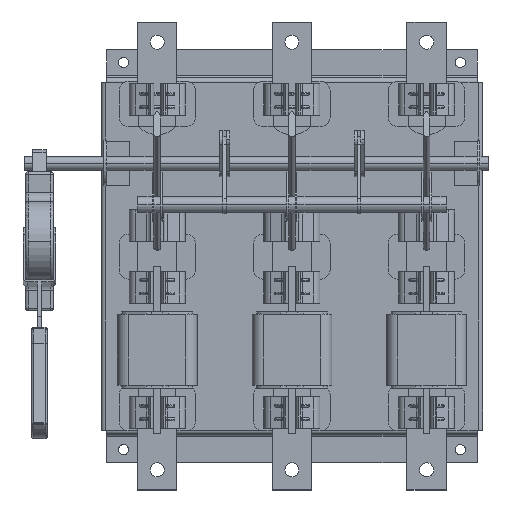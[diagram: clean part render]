
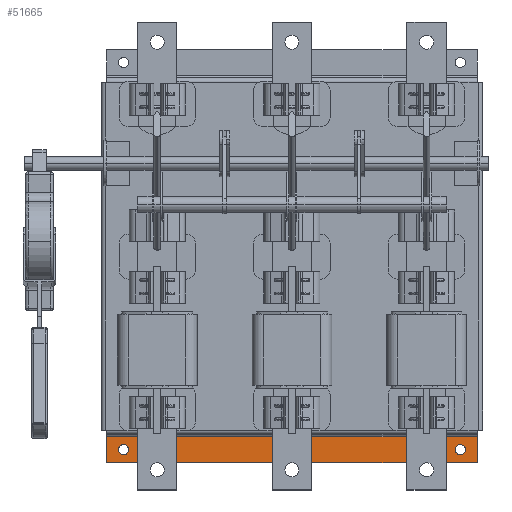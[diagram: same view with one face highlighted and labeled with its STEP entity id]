
A CAD part, top view. The second image highlights one B-rep face of the part: STEP entity #51665.
In plain terms, the highlighted planar face has unit normal (0, 0, 1).
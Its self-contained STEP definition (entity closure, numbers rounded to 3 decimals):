
#122 = DIRECTION ( 'NONE',  ( 0., 0., -1. ) ) ;
#995 = CARTESIAN_POINT ( 'NONE',  ( 150., -255., -11. ) ) ;
#1168 = DIRECTION ( 'NONE',  ( 1., 0., 0. ) ) ;
#1315 = EDGE_CURVE ( 'NONE', #61432, #32245, #54185, .T. ) ;
#1501 = AXIS2_PLACEMENT_3D ( 'NONE', #995, #51177, #56183 ) ;
#2226 = DIRECTION ( 'NONE',  ( -1., 0., 0. ) ) ;
#2629 = VERTEX_POINT ( 'NONE', #53457 ) ;
#2665 = EDGE_CURVE ( 'NONE', #2629, #44198, #53814, .T. ) ;
#2817 = ORIENTED_EDGE ( 'NONE', *, *, #1315, .F. ) ;
#3121 = VERTEX_POINT ( 'NONE', #7572 ) ;
#3544 = DIRECTION ( 'NONE',  ( 1., 0., 0. ) ) ;
#3920 = LINE ( 'NONE', #17055, #55451 ) ;
#4898 = DIRECTION ( 'NONE',  ( 0., 1., 0. ) ) ;
#5804 = ORIENTED_EDGE ( 'NONE', *, *, #20612, .F. ) ;
#6561 = EDGE_CURVE ( 'NONE', #57422, #14958, #31568, .T. ) ;
#7548 = CIRCLE ( 'NONE', #13536, 4.5 ) ;
#7572 = CARTESIAN_POINT ( 'NONE',  ( -145.5, -255., -11. ) ) ;
#7774 = LINE ( 'NONE', #53055, #24969 ) ;
#9704 = ORIENTED_EDGE ( 'NONE', *, *, #64267, .F. ) ;
#12346 = CARTESIAN_POINT ( 'NONE',  ( 165., -266.5, -11. ) ) ;
#12668 = EDGE_CURVE ( 'NONE', #3121, #39060, #25272, .T. ) ;
#13536 = AXIS2_PLACEMENT_3D ( 'NONE', #52868, #43711, #3544 ) ;
#14336 = CARTESIAN_POINT ( 'NONE',  ( -154.5, -255., -11. ) ) ;
#14759 = PLANE ( 'NONE',  #31998 ) ;
#14958 = VERTEX_POINT ( 'NONE', #12346 ) ;
#15029 = FACE_OUTER_BOUND ( 'NONE', #50176, .T. ) ;
#16272 = ORIENTED_EDGE ( 'NONE', *, *, #12668, .F. ) ;
#16445 = ORIENTED_EDGE ( 'NONE', *, *, #6561, .F. ) ;
#16732 = VECTOR ( 'NONE', #22561, 1000. ) ;
#17055 = CARTESIAN_POINT ( 'NONE',  ( 165., -266.5, -11. ) ) ;
#18966 = FACE_BOUND ( 'NONE', #22673, .T. ) ;
#20612 = EDGE_CURVE ( 'NONE', #14958, #44198, #3920, .T. ) ;
#22561 = DIRECTION ( 'NONE',  ( 0., -1., 0. ) ) ;
#22673 = EDGE_LOOP ( 'NONE', ( #16272, #23879 ) ) ;
#23879 = ORIENTED_EDGE ( 'NONE', *, *, #41314, .F. ) ;
#23975 = CARTESIAN_POINT ( 'NONE',  ( 165., -243.5, -11. ) ) ;
#24547 = ORIENTED_EDGE ( 'NONE', *, *, #55012, .T. ) ;
#24642 = DIRECTION ( 'NONE',  ( 0., 0., 1. ) ) ;
#24886 = DIRECTION ( 'NONE',  ( 0., -1., 0. ) ) ;
#24969 = VECTOR ( 'NONE', #2226, 1000. ) ;
#25272 = CIRCLE ( 'NONE', #46633, 4.5 ) ;
#26540 = VECTOR ( 'NONE', #24886, 1000. ) ;
#26600 = EDGE_LOOP ( 'NONE', ( #9704, #2817 ) ) ;
#27117 = DIRECTION ( 'NONE',  ( -1., 0., 0. ) ) ;
#27914 = CARTESIAN_POINT ( 'NONE',  ( 145.5, -255., -11. ) ) ;
#28324 = FACE_BOUND ( 'NONE', #26600, .T. ) ;
#29258 = CARTESIAN_POINT ( 'NONE',  ( -150., -255., -11. ) ) ;
#30258 = CARTESIAN_POINT ( 'NONE',  ( 165., -243.5, -11. ) ) ;
#31568 = LINE ( 'NONE', #55739, #16732 ) ;
#31998 = AXIS2_PLACEMENT_3D ( 'NONE', #30258, #122, #4898 ) ;
#32245 = VERTEX_POINT ( 'NONE', #51401 ) ;
#35428 = DIRECTION ( 'NONE',  ( 0., 0., 1. ) ) ;
#38990 = CIRCLE ( 'NONE', #57614, 4.5 ) ;
#39060 = VERTEX_POINT ( 'NONE', #14336 ) ;
#41314 = EDGE_CURVE ( 'NONE', #39060, #3121, #7548, .T. ) ;
#42644 = CARTESIAN_POINT ( 'NONE',  ( -165., -266.5, -11. ) ) ;
#43711 = DIRECTION ( 'NONE',  ( 0., 0., 1. ) ) ;
#44198 = VERTEX_POINT ( 'NONE', #42644 ) ;
#46633 = AXIS2_PLACEMENT_3D ( 'NONE', #29258, #24642, #64080 ) ;
#50176 = EDGE_LOOP ( 'NONE', ( #50873, #5804, #16445, #24547 ) ) ;
#50873 = ORIENTED_EDGE ( 'NONE', *, *, #2665, .T. ) ;
#51177 = DIRECTION ( 'NONE',  ( 0., 0., 1. ) ) ;
#51401 = CARTESIAN_POINT ( 'NONE',  ( 154.5, -255., -11. ) ) ;
#51665 = ADVANCED_FACE ( 'NONE', ( #18966, #28324, #15029 ), #14759, .F. ) ;
#52868 = CARTESIAN_POINT ( 'NONE',  ( -150., -255., -11. ) ) ;
#53055 = CARTESIAN_POINT ( 'NONE',  ( 165., -243.5, -11. ) ) ;
#53457 = CARTESIAN_POINT ( 'NONE',  ( -165., -243.5, -11. ) ) ;
#53814 = LINE ( 'NONE', #64548, #26540 ) ;
#54185 = CIRCLE ( 'NONE', #1501, 4.5 ) ;
#55012 = EDGE_CURVE ( 'NONE', #57422, #2629, #7774, .T. ) ;
#55451 = VECTOR ( 'NONE', #27117, 1000. ) ;
#55739 = CARTESIAN_POINT ( 'NONE',  ( 165., -243.5, -11. ) ) ;
#56183 = DIRECTION ( 'NONE',  ( 1., 0., 0. ) ) ;
#57422 = VERTEX_POINT ( 'NONE', #23975 ) ;
#57614 = AXIS2_PLACEMENT_3D ( 'NONE', #60726, #35428, #1168 ) ;
#60726 = CARTESIAN_POINT ( 'NONE',  ( 150., -255., -11. ) ) ;
#61432 = VERTEX_POINT ( 'NONE', #27914 ) ;
#64080 = DIRECTION ( 'NONE',  ( 1., 0., 0. ) ) ;
#64267 = EDGE_CURVE ( 'NONE', #32245, #61432, #38990, .T. ) ;
#64548 = CARTESIAN_POINT ( 'NONE',  ( -165., -243.5, -11. ) ) ;
